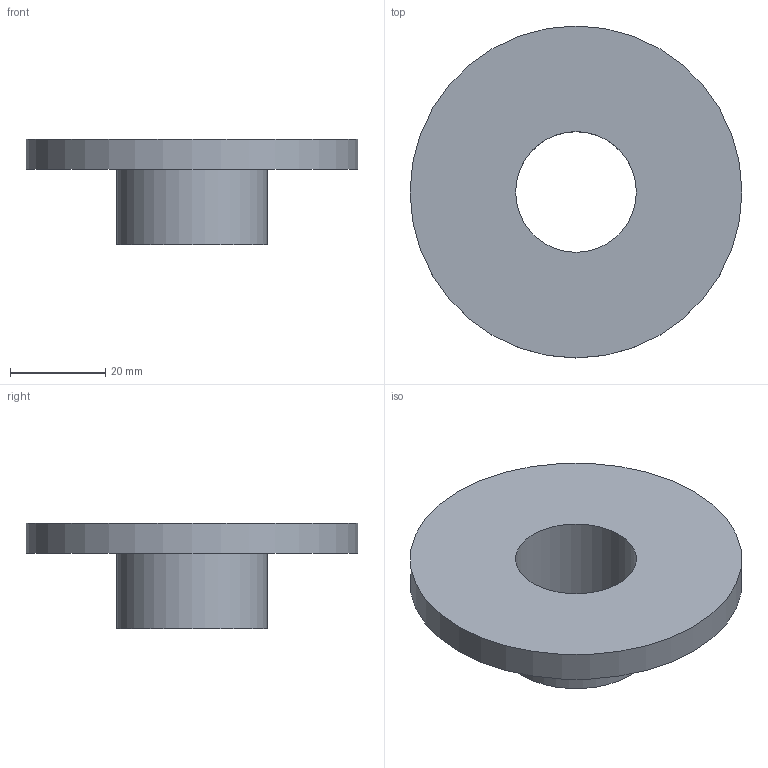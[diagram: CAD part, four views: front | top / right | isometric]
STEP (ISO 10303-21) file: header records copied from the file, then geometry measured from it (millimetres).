
FILE_DESCRIPTION((''),'2;1');
FILE_NAME('C:\REVIT SHARED FILES\STP\HG\HG-100.stp','2013-09-06T15:01:15',('rramoutar'),(''),'Autodesk Inventor 2012','Autodesk Inventor 2012','');
FILE_SCHEMA(('AUTOMOTIVE_DESIGN { 1 0 10303 214 1 1 1 1 }'));
Length unit declared in the file: inch
Products named in the file (1): HG-100
Bounding box: 69.85 x 69.85 x 22.23 mm (x, y, z)
Volume: 25640.2 mm3; surface area: 11400.9 mm2
Topology: 1 solids, 1 shells, 6 faces, 9 edges, 6 vertices
Faces by surface type: plane 3, cylinder 3
Full cylindrical faces by diameter (mm): 25.4 x1, 31.75 x1, 69.85 x1
Entity records: 156 total; most frequent: DIRECTION 26, CARTESIAN_POINT 19, AXIS2_PLACEMENT_3D 13, ORIENTED_EDGE 12, EDGE_LOOP 12, VERTEX_POINT 6, CIRCLE 6, EDGE_CURVE 6
